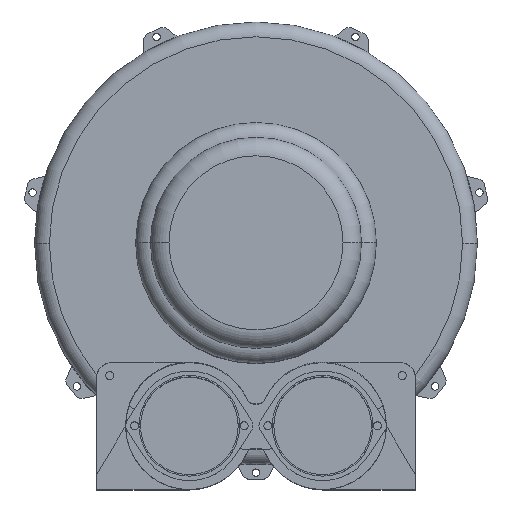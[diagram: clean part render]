
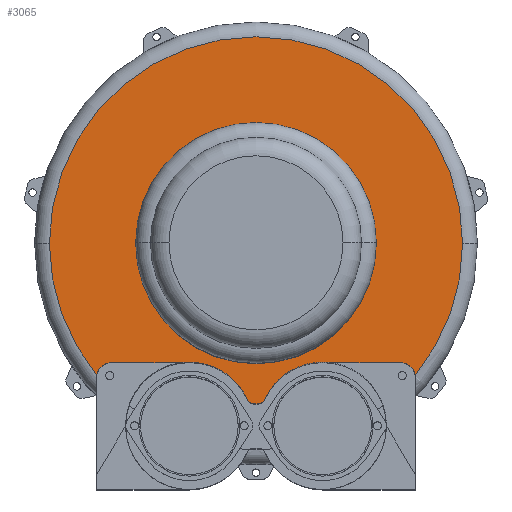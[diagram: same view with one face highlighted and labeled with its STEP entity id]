
A CAD part, top view. The second image highlights one B-rep face of the part: STEP entity #3065.
In plain terms, the highlighted planar face has unit normal (0, 0, 1).
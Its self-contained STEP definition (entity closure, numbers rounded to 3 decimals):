
#23 = AXIS2_PLACEMENT_3D ( 'NONE', #4499, #1870, #4937 ) ;
#39 = DIRECTION ( 'NONE',  ( 1., 0., 0. ) ) ;
#54 = EDGE_CURVE ( 'NONE', #3641, #4049, #2516, .T. ) ;
#76 = CARTESIAN_POINT ( 'NONE',  ( 2.73, -207., 96.5 ) ) ;
#165 = CIRCLE ( 'NONE', #3913, 10. ) ;
#173 = EDGE_CURVE ( 'NONE', #2300, #2961, #2981, .T. ) ;
#179 = ORIENTED_EDGE ( 'NONE', *, *, #173, .F. ) ;
#237 = ORIENTED_EDGE ( 'NONE', *, *, #1422, .F. ) ;
#246 = EDGE_CURVE ( 'NONE', #2961, #4726, #165, .T. ) ;
#263 = CARTESIAN_POINT ( 'NONE',  ( 11.821, -211.167, 96.5 ) ) ;
#286 = VERTEX_POINT ( 'NONE', #1142 ) ;
#422 = EDGE_CURVE ( 'NONE', #4726, #3081, #4807, .T. ) ;
#496 = EDGE_CURVE ( 'NONE', #2570, #2300, #3380, .T. ) ;
#497 = CARTESIAN_POINT ( 'NONE',  ( 90., -247., 96.5 ) ) ;
#511 = FACE_BOUND ( 'NONE', #2063, .T. ) ;
#534 = DIRECTION ( 'NONE',  ( 0., 0., 1. ) ) ;
#553 = ORIENTED_EDGE ( 'NONE', *, *, #422, .F. ) ;
#611 = EDGE_CURVE ( 'NONE', #1161, #2570, #3989, .T. ) ;
#691 = ORIENTED_EDGE ( 'NONE', *, *, #5163, .F. ) ;
#710 = EDGE_CURVE ( 'NONE', #4380, #3641, #3716, .T. ) ;
#888 = CARTESIAN_POINT ( 'NONE',  ( 0., 0., 96.5 ) ) ;
#1110 = VERTEX_POINT ( 'NONE', #5507 ) ;
#1142 = CARTESIAN_POINT ( 'NONE',  ( -162.5, 0., 96.5 ) ) ;
#1145 = CARTESIAN_POINT ( 'NONE',  ( 0., 0., 96.5 ) ) ;
#1161 = VERTEX_POINT ( 'NONE', #2092 ) ;
#1205 = ORIENTED_EDGE ( 'NONE', *, *, #710, .T. ) ;
#1309 = FACE_OUTER_BOUND ( 'NONE', #2947, .T. ) ;
#1328 = DIRECTION ( 'NONE',  ( 1., 0., 0. ) ) ;
#1344 = DIRECTION ( 'NONE',  ( 0., 0., 1. ) ) ;
#1349 = CARTESIAN_POINT ( 'NONE',  ( 0., 0., 96.5 ) ) ;
#1359 = DIRECTION ( 'NONE',  ( 1., 0., 0. ) ) ;
#1410 = VECTOR ( 'NONE', #5489, 1000. ) ;
#1422 = EDGE_CURVE ( 'NONE', #3081, #2427, #4925, .T. ) ;
#1493 = AXIS2_PLACEMENT_3D ( 'NONE', #4734, #2131, #5178 ) ;
#1576 = CARTESIAN_POINT ( 'NONE',  ( 162.5, 0., 96.5 ) ) ;
#1610 = DIRECTION ( 'NONE',  ( 1., 0., 0. ) ) ;
#1671 = CIRCLE ( 'NONE', #4046, 20. ) ;
#1704 = AXIS2_PLACEMENT_3D ( 'NONE', #888, #4005, #1359 ) ;
#1730 = LINE ( 'NONE', #4459, #3930 ) ;
#1761 = ORIENTED_EDGE ( 'NONE', *, *, #611, .F. ) ;
#1793 = VECTOR ( 'NONE', #5557, 1000. ) ;
#1866 = CARTESIAN_POINT ( 'NONE',  ( -195., -161., 96.5 ) ) ;
#1870 = DIRECTION ( 'NONE',  ( 0., 0., 1. ) ) ;
#1911 = ORIENTED_EDGE ( 'NONE', *, *, #246, .F. ) ;
#1928 = CARTESIAN_POINT ( 'NONE',  ( -195., -181., 96.5 ) ) ;
#2014 = AXIS2_PLACEMENT_3D ( 'NONE', #497, #5259, #2645 ) ;
#2050 = DIRECTION ( 'NONE',  ( -1., 0., 0. ) ) ;
#2063 = EDGE_LOOP ( 'NONE', ( #2349, #5450 ) ) ;
#2072 = DIRECTION ( 'NONE',  ( 0., 0., -1. ) ) ;
#2089 = CARTESIAN_POINT ( 'NONE',  ( -2.73, -207., 96.5 ) ) ;
#2092 = CARTESIAN_POINT ( 'NONE',  ( 90., -161., 96.5 ) ) ;
#2123 = CARTESIAN_POINT ( 'NONE',  ( -11.821, -211.167, 96.5 ) ) ;
#2131 = DIRECTION ( 'NONE',  ( 0., 0., 1. ) ) ;
#2202 = ORIENTED_EDGE ( 'NONE', *, *, #5316, .T. ) ;
#2300 = VERTEX_POINT ( 'NONE', #3977 ) ;
#2349 = ORIENTED_EDGE ( 'NONE', *, *, #4009, .F. ) ;
#2363 = CARTESIAN_POINT ( 'NONE',  ( 279., 0., 96.5 ) ) ;
#2375 = PLANE ( 'NONE',  #4002 ) ;
#2382 = DIRECTION ( 'NONE',  ( 1., 0., 0. ) ) ;
#2427 = VERTEX_POINT ( 'NONE', #1866 ) ;
#2508 = AXIS2_PLACEMENT_3D ( 'NONE', #76, #4479, #39 ) ;
#2516 = CIRCLE ( 'NONE', #4760, 279. ) ;
#2518 = CIRCLE ( 'NONE', #5019, 20. ) ;
#2570 = VERTEX_POINT ( 'NONE', #263 ) ;
#2645 = DIRECTION ( 'NONE',  ( 1., 0., 0. ) ) ;
#2712 = CARTESIAN_POINT ( 'NONE',  ( -2.73, -217., 96.5 ) ) ;
#2777 = ORIENTED_EDGE ( 'NONE', *, *, #5096, .F. ) ;
#2801 = AXIS2_PLACEMENT_3D ( 'NONE', #4987, #4959, #4873 ) ;
#2819 = DIRECTION ( 'NONE',  ( 1., 0., 0. ) ) ;
#2836 = ORIENTED_EDGE ( 'NONE', *, *, #496, .F. ) ;
#2855 = CIRCLE ( 'NONE', #4252, 279. ) ;
#2858 = ORIENTED_EDGE ( 'NONE', *, *, #54, .T. ) ;
#2947 = EDGE_LOOP ( 'NONE', ( #2777, #691, #2202, #1205, #2858, #4372, #237, #553, #1911, #179, #2836, #1761 ) ) ;
#2961 = VERTEX_POINT ( 'NONE', #2712 ) ;
#2981 = LINE ( 'NONE', #5527, #1793 ) ;
#3008 = CARTESIAN_POINT ( 'NONE',  ( -214.784, -178.07, 96.5 ) ) ;
#3065 = ADVANCED_FACE ( 'NONE', ( #511, #1309 ), #2375, .T. ) ;
#3081 = VERTEX_POINT ( 'NONE', #3243 ) ;
#3238 = CARTESIAN_POINT ( 'NONE',  ( 195., -181., 96.5 ) ) ;
#3241 = VERTEX_POINT ( 'NONE', #1576 ) ;
#3243 = CARTESIAN_POINT ( 'NONE',  ( -90., -161., 96.5 ) ) ;
#3380 = CIRCLE ( 'NONE', #2508, 10. ) ;
#3590 = DIRECTION ( 'NONE',  ( -1., 0., 0. ) ) ;
#3641 = VERTEX_POINT ( 'NONE', #4653 ) ;
#3668 = DIRECTION ( 'NONE',  ( 1., 0., 0. ) ) ;
#3714 = CARTESIAN_POINT ( 'NONE',  ( 195., -161., 96.5 ) ) ;
#3716 = CIRCLE ( 'NONE', #1704, 279. ) ;
#3913 = AXIS2_PLACEMENT_3D ( 'NONE', #2089, #2072, #2050 ) ;
#3930 = VECTOR ( 'NONE', #3590, 1000. ) ;
#3977 = CARTESIAN_POINT ( 'NONE',  ( 2.73, -217., 96.5 ) ) ;
#3989 = CIRCLE ( 'NONE', #2014, 86. ) ;
#4002 = AXIS2_PLACEMENT_3D ( 'NONE', #4986, #5424, #2819 ) ;
#4005 = DIRECTION ( 'NONE',  ( 0., 0., 1. ) ) ;
#4009 = EDGE_CURVE ( 'NONE', #286, #3241, #4483, .T. ) ;
#4046 = AXIS2_PLACEMENT_3D ( 'NONE', #1928, #4989, #2382 ) ;
#4049 = VERTEX_POINT ( 'NONE', #3008 ) ;
#4250 = DIRECTION ( 'NONE',  ( 0., 0., 1. ) ) ;
#4252 = AXIS2_PLACEMENT_3D ( 'NONE', #1145, #4250, #1610 ) ;
#4372 = ORIENTED_EDGE ( 'NONE', *, *, #4379, .F. ) ;
#4379 = EDGE_CURVE ( 'NONE', #2427, #4049, #1671, .T. ) ;
#4380 = VERTEX_POINT ( 'NONE', #2363 ) ;
#4459 = CARTESIAN_POINT ( 'NONE',  ( 195., -161., 96.5 ) ) ;
#4471 = VERTEX_POINT ( 'NONE', #3714 ) ;
#4479 = DIRECTION ( 'NONE',  ( 0., 0., -1. ) ) ;
#4483 = CIRCLE ( 'NONE', #1493, 162.5 ) ;
#4499 = CARTESIAN_POINT ( 'NONE',  ( 0., 0., 96.5 ) ) ;
#4653 = CARTESIAN_POINT ( 'NONE',  ( -279., 0., 96.5 ) ) ;
#4726 = VERTEX_POINT ( 'NONE', #2123 ) ;
#4734 = CARTESIAN_POINT ( 'NONE',  ( 0., 0., 96.5 ) ) ;
#4760 = AXIS2_PLACEMENT_3D ( 'NONE', #1349, #1344, #1328 ) ;
#4807 = CIRCLE ( 'NONE', #2801, 86. ) ;
#4873 = DIRECTION ( 'NONE',  ( -1., 0., 0. ) ) ;
#4925 = LINE ( 'NONE', #5054, #1410 ) ;
#4937 = DIRECTION ( 'NONE',  ( 1., 0., 0. ) ) ;
#4959 = DIRECTION ( 'NONE',  ( 0., 0., 1. ) ) ;
#4986 = CARTESIAN_POINT ( 'NONE',  ( 0., 0., 96.5 ) ) ;
#4987 = CARTESIAN_POINT ( 'NONE',  ( -90., -247., 96.5 ) ) ;
#4989 = DIRECTION ( 'NONE',  ( 0., 0., 1. ) ) ;
#5019 = AXIS2_PLACEMENT_3D ( 'NONE', #3238, #534, #3668 ) ;
#5054 = CARTESIAN_POINT ( 'NONE',  ( -90., -161., 96.5 ) ) ;
#5096 = EDGE_CURVE ( 'NONE', #4471, #1161, #1730, .T. ) ;
#5105 = CIRCLE ( 'NONE', #23, 162.5 ) ;
#5119 = EDGE_CURVE ( 'NONE', #3241, #286, #5105, .T. ) ;
#5163 = EDGE_CURVE ( 'NONE', #1110, #4471, #2518, .T. ) ;
#5178 = DIRECTION ( 'NONE',  ( 1., 0., 0. ) ) ;
#5259 = DIRECTION ( 'NONE',  ( 0., 0., 1. ) ) ;
#5316 = EDGE_CURVE ( 'NONE', #1110, #4380, #2855, .T. ) ;
#5424 = DIRECTION ( 'NONE',  ( 0., 0., 1. ) ) ;
#5450 = ORIENTED_EDGE ( 'NONE', *, *, #5119, .F. ) ;
#5489 = DIRECTION ( 'NONE',  ( -1., 0., 0. ) ) ;
#5507 = CARTESIAN_POINT ( 'NONE',  ( 214.784, -178.07, 96.5 ) ) ;
#5527 = CARTESIAN_POINT ( 'NONE',  ( 2.73, -217., 96.5 ) ) ;
#5557 = DIRECTION ( 'NONE',  ( -1., 0., 0. ) ) ;
